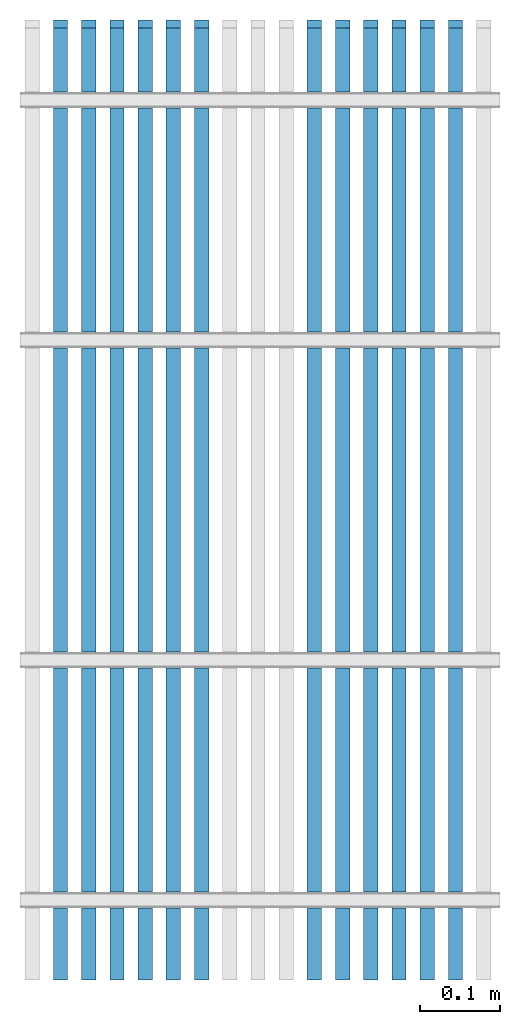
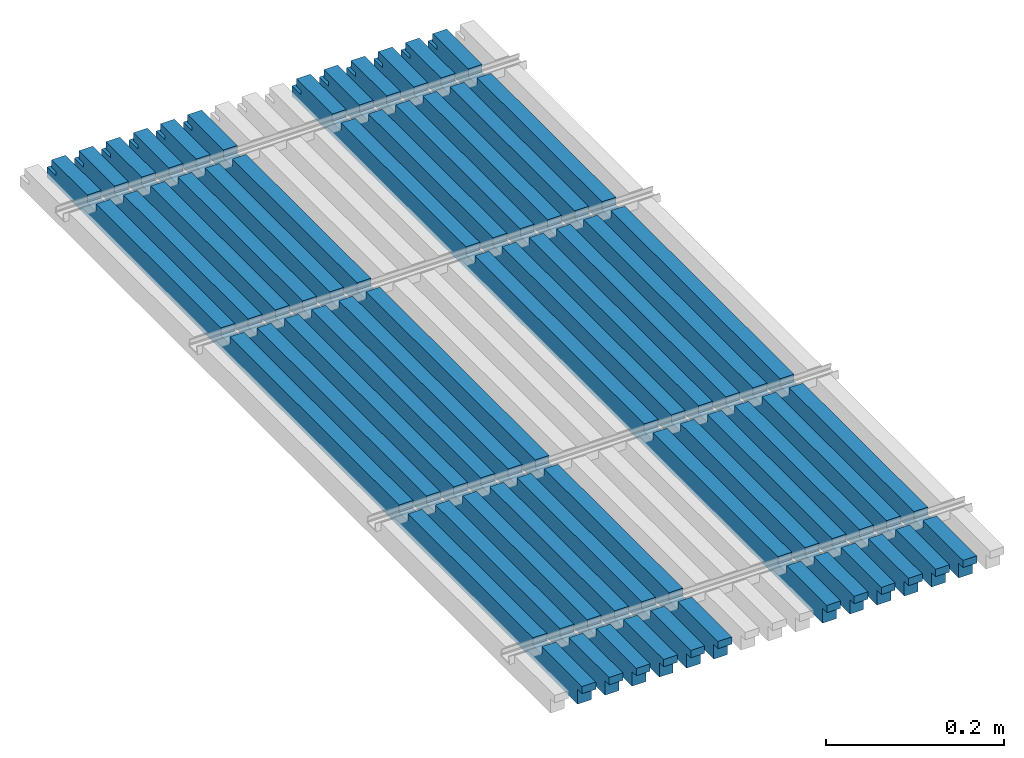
# One storey, part 2 of 3: 12 walls.
"""IFC2X3 building model written with IfcOpenShell, lengths in millimetres."""

from ifc_helpers import new_model, entity, si_unit, converted_unit, money_unit, direction, frame, origin_with_axes, place, context, subcontext, project, spatial, polyline, outline, extrude, boolean, faceted_brep, material, layer, layer_set, layer_usage, type_object, element, save


model = new_model("IFC2X3")

# Units and contexts
model_context = context("Model", 3, precision=1e-05, world=origin_with_axes(), true_north=direction((0.0, 1.0)))
body_context = subcontext(model_context, "Body", "Model", "MODEL_VIEW")
ifc_project = project(units=[si_unit("LENGTHUNIT", "METRE", prefix="MILLI"), si_unit("AREAUNIT", "SQUARE_METRE"), si_unit("VOLUMEUNIT", "CUBIC_METRE"), converted_unit("PLANEANGLEUNIT", "DEGREE", entity("IfcPlaneAngleMeasure", 0.0174532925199), si_unit("PLANEANGLEUNIT", "RADIAN"), dimensions=[0, 0, 0, 0, 0, 0, 0]), si_unit("SOLIDANGLEUNIT", "STERADIAN"), money_unit("AUD"), si_unit("TIMEUNIT", "SECOND"), si_unit("MASSUNIT", "GRAM"), si_unit("THERMODYNAMICTEMPERATUREUNIT", "DEGREE_CELSIUS"), si_unit("LUMINOUSINTENSITYUNIT", "LUMEN")], contexts=[model_context])

# Site, building, storey
site_placement = place(None, origin_with_axes())
site = spatial("IfcSite", under=ifc_project, at=site_placement, Name="Site", CompositionType="ELEMENT")
building_placement = place(site_placement, origin_with_axes())
building = spatial("IfcBuilding", under=site, at=building_placement, Name="Building", CompositionType="ELEMENT")
storey_placement = place(building_placement, origin_with_axes())
storey = spatial("IfcBuildingStorey", under=building, at=storey_placement, Name="GROUND", CompositionType="ELEMENT", Elevation=0.0)

# Walls
ifc_material = material(Name="Timber")
ifc_layer = layer(ifc_material, 18.0, ventilated="UNKNOWN")
ifc_layer_set = layer_set([ifc_layer], Name="Timber 18")
ifc_layer_usage_1 = layer_usage(ifc_layer_set, "AXIS2", "POSITIVE", 0.0)
wall_type = type_object("IfcWallType", Name="Timber 18", PredefinedType="NOTDEFINED")
wall_1_placement = place(storey_placement, frame((379.5225, 0.0, 0.0), z_axis=(0.0, 0.0, 1.0), x_axis=(0.0, 1.0, 0.0)))
element("IfcWallStandardCase", 1, at=wall_1_placement, inside=storey, type_object=wall_type, material=ifc_layer_usage_1, Name="WALL-01", context=body_context, shape_type="CSG", body=[
    boolean("DIFFERENCE", boolean("DIFFERENCE", boolean("DIFFERENCE", boolean("DIFFERENCE", boolean("DIFFERENCE", boolean("DIFFERENCE", extrude(outline(polyline([(0.0, 0.0), (1200.0, 0.0), (1200.0, 18.0), (0.0, 18.0), (0.0, 0.0)])), origin_with_axes(), (0.0, 0.0, 1.0), 30.0), faceted_brep([(9.5, 0.0, 20.0), (0.0, 0.0, 20.0), (0.0, 0.0, 0.0), (9.5, 0.0, 0.0), (9.5, 18.0, 20.0), (0.0, 18.0, 20.0), (0.0, 18.0, 0.0), (9.5, 18.0, 0.0)], [[[0, 1, 2, 3]], [[1, 0, 4, 5]], [[1, 5, 6, 2]], [[7, 3, 2, 6]], [[0, 3, 7, 4]], [[4, 7, 6, 5]]])), faceted_brep([(90.0, 0.0, 20.0), (110.0, 0.0, 20.0), (110.0, 0.0, 30.0), (90.0, 0.0, 30.0), (90.0, 18.0, 20.0), (110.0, 18.0, 20.0), (110.0, 18.0, 30.0), (90.0, 18.0, 30.0)], [[[0, 1, 2, 3]], [[1, 0, 4, 5]], [[6, 2, 1, 5]], [[7, 3, 2, 6]], [[0, 3, 7, 4]], [[4, 7, 6, 5]]])), faceted_brep([(390.0, 0.0, 20.0), (410.0, 0.0, 20.0), (410.0, 0.0, 30.0), (390.0, 0.0, 30.0), (390.0, 18.0, 20.0), (410.0, 18.0, 20.0), (410.0, 18.0, 30.0), (390.0, 18.0, 30.0)], [[[0, 1, 2, 3]], [[1, 0, 4, 5]], [[6, 2, 1, 5]], [[7, 3, 2, 6]], [[0, 3, 7, 4]], [[4, 7, 6, 5]]])), faceted_brep([(790.0, 0.0, 20.0), (810.0, 0.0, 20.0), (810.0, 0.0, 30.0), (790.0, 0.0, 30.0), (790.0, 18.0, 20.0), (810.0, 18.0, 20.0), (810.0, 18.0, 30.0), (790.0, 18.0, 30.0)], [[[0, 1, 2, 3]], [[1, 0, 4, 5]], [[6, 2, 1, 5]], [[7, 3, 2, 6]], [[0, 3, 7, 4]], [[4, 7, 6, 5]]])), faceted_brep([(1090.0, 0.0, 20.0), (1110.0, 0.0, 20.0), (1110.0, 0.0, 30.0), (1090.0, 0.0, 30.0), (1090.0, 18.0, 20.0), (1110.0, 18.0, 20.0), (1110.0, 18.0, 30.0), (1090.0, 18.0, 30.0)], [[[0, 1, 2, 3]], [[1, 0, 4, 5]], [[6, 2, 1, 5]], [[7, 3, 2, 6]], [[0, 3, 7, 4]], [[4, 7, 6, 5]]])), faceted_brep([(1180.0, 0.0, 19.5), (1180.0, 0.0, 14.0), (1200.0, 0.0, 14.0), (1200.0, 0.0, 30.0), (1190.0, 0.0, 30.0), (1190.0, 0.0, 19.5), (1180.0, 18.0, 19.5), (1180.0, 18.0, 14.0), (1200.0, 18.0, 14.0), (1200.0, 18.0, 30.0), (1190.0, 18.0, 30.0), (1190.0, 18.0, 19.5)], [[[0, 1, 2, 3, 4, 5]], [[1, 0, 6, 7]], [[8, 2, 1, 7]], [[2, 8, 9, 3]], [[10, 4, 3, 9]], [[5, 4, 10, 11]], [[0, 5, 11, 6]], [[11, 10, 9, 8, 7, 6]]])),
])
ifc_layer_usage_2 = layer_usage(ifc_layer_set, "AXIS2", "POSITIVE", 0.0)
wall_2_placement = place(storey_placement, frame((414.78375, 0.0, 0.0), z_axis=(0.0, 0.0, 1.0), x_axis=(0.0, 1.0, 0.0)))
element("IfcWallStandardCase", 2, at=wall_2_placement, inside=storey, type_object=wall_type, material=ifc_layer_usage_2, Name="WALL-01", context=body_context, shape_type="CSG", body=[
    boolean("DIFFERENCE", boolean("DIFFERENCE", boolean("DIFFERENCE", boolean("DIFFERENCE", boolean("DIFFERENCE", boolean("DIFFERENCE", extrude(outline(polyline([(0.0, 0.0), (1200.0, 0.0), (1200.0, 18.0), (0.0, 18.0), (0.0, 0.0)])), origin_with_axes(), (0.0, 0.0, 1.0), 30.0), faceted_brep([(9.5, 0.0, 20.0), (0.0, 0.0, 20.0), (0.0, 0.0, 0.0), (9.5, 0.0, 0.0), (9.5, 18.0, 20.0), (0.0, 18.0, 20.0), (0.0, 18.0, 0.0), (9.5, 18.0, 0.0)], [[[0, 1, 2, 3]], [[1, 0, 4, 5]], [[1, 5, 6, 2]], [[7, 3, 2, 6]], [[0, 3, 7, 4]], [[4, 7, 6, 5]]])), faceted_brep([(90.0, 0.0, 20.0), (110.0, 0.0, 20.0), (110.0, 0.0, 30.0), (90.0, 0.0, 30.0), (90.0, 18.0, 20.0), (110.0, 18.0, 20.0), (110.0, 18.0, 30.0), (90.0, 18.0, 30.0)], [[[0, 1, 2, 3]], [[1, 0, 4, 5]], [[6, 2, 1, 5]], [[7, 3, 2, 6]], [[0, 3, 7, 4]], [[4, 7, 6, 5]]])), faceted_brep([(390.0, 0.0, 20.0), (410.0, 0.0, 20.0), (410.0, 0.0, 30.0), (390.0, 0.0, 30.0), (390.0, 18.0, 20.0), (410.0, 18.0, 20.0), (410.0, 18.0, 30.0), (390.0, 18.0, 30.0)], [[[0, 1, 2, 3]], [[1, 0, 4, 5]], [[6, 2, 1, 5]], [[7, 3, 2, 6]], [[0, 3, 7, 4]], [[4, 7, 6, 5]]])), faceted_brep([(790.0, 0.0, 20.0), (810.0, 0.0, 20.0), (810.0, 0.0, 30.0), (790.0, 0.0, 30.0), (790.0, 18.0, 20.0), (810.0, 18.0, 20.0), (810.0, 18.0, 30.0), (790.0, 18.0, 30.0)], [[[0, 1, 2, 3]], [[1, 0, 4, 5]], [[6, 2, 1, 5]], [[7, 3, 2, 6]], [[0, 3, 7, 4]], [[4, 7, 6, 5]]])), faceted_brep([(1090.0, 0.0, 20.0), (1110.0, 0.0, 20.0), (1110.0, 0.0, 30.0), (1090.0, 0.0, 30.0), (1090.0, 18.0, 20.0), (1110.0, 18.0, 20.0), (1110.0, 18.0, 30.0), (1090.0, 18.0, 30.0)], [[[0, 1, 2, 3]], [[1, 0, 4, 5]], [[6, 2, 1, 5]], [[7, 3, 2, 6]], [[0, 3, 7, 4]], [[4, 7, 6, 5]]])), faceted_brep([(1180.0, 0.0, 19.5), (1180.0, 0.0, 14.0), (1200.0, 0.0, 14.0), (1200.0, 0.0, 30.0), (1190.0, 0.0, 30.0), (1190.0, 0.0, 19.5), (1180.0, 18.0, 19.5), (1180.0, 18.0, 14.0), (1200.0, 18.0, 14.0), (1200.0, 18.0, 30.0), (1190.0, 18.0, 30.0), (1190.0, 18.0, 19.5)], [[[0, 1, 2, 3, 4, 5]], [[1, 0, 6, 7]], [[8, 2, 1, 7]], [[2, 8, 9, 3]], [[10, 4, 3, 9]], [[5, 4, 10, 11]], [[0, 5, 11, 6]], [[11, 10, 9, 8, 7, 6]]])),
])
ifc_layer_usage_3 = layer_usage(ifc_layer_set, "AXIS2", "POSITIVE", 0.0)
wall_3_placement = place(storey_placement, frame((450.045, 0.0, 0.0), z_axis=(0.0, 0.0, 1.0), x_axis=(0.0, 1.0, 0.0)))
element("IfcWallStandardCase", 3, at=wall_3_placement, inside=storey, type_object=wall_type, material=ifc_layer_usage_3, Name="WALL-01", context=body_context, shape_type="CSG", body=[
    boolean("DIFFERENCE", boolean("DIFFERENCE", boolean("DIFFERENCE", boolean("DIFFERENCE", boolean("DIFFERENCE", boolean("DIFFERENCE", extrude(outline(polyline([(0.0, 0.0), (1200.0, 0.0), (1200.0, 18.0), (0.0, 18.0), (0.0, 0.0)])), origin_with_axes(), (0.0, 0.0, 1.0), 30.0), faceted_brep([(9.5, 0.0, 20.0), (0.0, 0.0, 20.0), (0.0, 0.0, 0.0), (9.5, 0.0, 0.0), (9.5, 18.0, 20.0), (0.0, 18.0, 20.0), (0.0, 18.0, 0.0), (9.5, 18.0, 0.0)], [[[0, 1, 2, 3]], [[1, 0, 4, 5]], [[1, 5, 6, 2]], [[7, 3, 2, 6]], [[0, 3, 7, 4]], [[4, 7, 6, 5]]])), faceted_brep([(90.0, 0.0, 20.0), (110.0, 0.0, 20.0), (110.0, 0.0, 30.0), (90.0, 0.0, 30.0), (90.0, 18.0, 20.0), (110.0, 18.0, 20.0), (110.0, 18.0, 30.0), (90.0, 18.0, 30.0)], [[[0, 1, 2, 3]], [[1, 0, 4, 5]], [[6, 2, 1, 5]], [[7, 3, 2, 6]], [[0, 3, 7, 4]], [[4, 7, 6, 5]]])), faceted_brep([(390.0, 0.0, 20.0), (410.0, 0.0, 20.0), (410.0, 0.0, 30.0), (390.0, 0.0, 30.0), (390.0, 18.0, 20.0), (410.0, 18.0, 20.0), (410.0, 18.0, 30.0), (390.0, 18.0, 30.0)], [[[0, 1, 2, 3]], [[1, 0, 4, 5]], [[6, 2, 1, 5]], [[7, 3, 2, 6]], [[0, 3, 7, 4]], [[4, 7, 6, 5]]])), faceted_brep([(790.0, 0.0, 20.0), (810.0, 0.0, 20.0), (810.0, 0.0, 30.0), (790.0, 0.0, 30.0), (790.0, 18.0, 20.0), (810.0, 18.0, 20.0), (810.0, 18.0, 30.0), (790.0, 18.0, 30.0)], [[[0, 1, 2, 3]], [[1, 0, 4, 5]], [[6, 2, 1, 5]], [[7, 3, 2, 6]], [[0, 3, 7, 4]], [[4, 7, 6, 5]]])), faceted_brep([(1090.0, 0.0, 20.0), (1110.0, 0.0, 20.0), (1110.0, 0.0, 30.0), (1090.0, 0.0, 30.0), (1090.0, 18.0, 20.0), (1110.0, 18.0, 20.0), (1110.0, 18.0, 30.0), (1090.0, 18.0, 30.0)], [[[0, 1, 2, 3]], [[1, 0, 4, 5]], [[6, 2, 1, 5]], [[7, 3, 2, 6]], [[0, 3, 7, 4]], [[4, 7, 6, 5]]])), faceted_brep([(1180.0, 0.0, 19.5), (1180.0, 0.0, 14.0), (1200.0, 0.0, 14.0), (1200.0, 0.0, 30.0), (1190.0, 0.0, 30.0), (1190.0, 0.0, 19.5), (1180.0, 18.0, 19.5), (1180.0, 18.0, 14.0), (1200.0, 18.0, 14.0), (1200.0, 18.0, 30.0), (1190.0, 18.0, 30.0), (1190.0, 18.0, 19.5)], [[[0, 1, 2, 3, 4, 5]], [[1, 0, 6, 7]], [[8, 2, 1, 7]], [[2, 8, 9, 3]], [[10, 4, 3, 9]], [[5, 4, 10, 11]], [[0, 5, 11, 6]], [[11, 10, 9, 8, 7, 6]]])),
])
ifc_layer_usage_4 = layer_usage(ifc_layer_set, "AXIS2", "POSITIVE", 0.0)
wall_4_placement = place(storey_placement, frame((238.4775, 0.0, 0.0), z_axis=(0.0, 0.0, 1.0), x_axis=(0.0, 1.0, 0.0)))
element("IfcWallStandardCase", 4, at=wall_4_placement, inside=storey, type_object=wall_type, material=ifc_layer_usage_4, Name="WALL-01", context=body_context, shape_type="CSG", body=[
    boolean("DIFFERENCE", boolean("DIFFERENCE", boolean("DIFFERENCE", boolean("DIFFERENCE", boolean("DIFFERENCE", boolean("DIFFERENCE", extrude(outline(polyline([(0.0, 0.0), (1200.0, 0.0), (1200.0, 18.0), (0.0, 18.0), (0.0, 0.0)])), origin_with_axes(), (0.0, 0.0, 1.0), 30.0), faceted_brep([(9.5, 0.0, 20.0), (0.0, 0.0, 20.0), (0.0, 0.0, 0.0), (9.5, 0.0, 0.0), (9.5, 18.0, 20.0), (0.0, 18.0, 20.0), (0.0, 18.0, 0.0), (9.5, 18.0, 0.0)], [[[0, 1, 2, 3]], [[1, 0, 4, 5]], [[1, 5, 6, 2]], [[7, 3, 2, 6]], [[0, 3, 7, 4]], [[4, 7, 6, 5]]])), faceted_brep([(90.0, 0.0, 20.0), (110.0, 0.0, 20.0), (110.0, 0.0, 30.0), (90.0, 0.0, 30.0), (90.0, 18.0, 20.0), (110.0, 18.0, 20.0), (110.0, 18.0, 30.0), (90.0, 18.0, 30.0)], [[[0, 1, 2, 3]], [[1, 0, 4, 5]], [[6, 2, 1, 5]], [[7, 3, 2, 6]], [[0, 3, 7, 4]], [[4, 7, 6, 5]]])), faceted_brep([(390.0, 0.0, 20.0), (410.0, 0.0, 20.0), (410.0, 0.0, 30.0), (390.0, 0.0, 30.0), (390.0, 18.0, 20.0), (410.0, 18.0, 20.0), (410.0, 18.0, 30.0), (390.0, 18.0, 30.0)], [[[0, 1, 2, 3]], [[1, 0, 4, 5]], [[6, 2, 1, 5]], [[7, 3, 2, 6]], [[0, 3, 7, 4]], [[4, 7, 6, 5]]])), faceted_brep([(790.0, 0.0, 20.0), (810.0, 0.0, 20.0), (810.0, 0.0, 30.0), (790.0, 0.0, 30.0), (790.0, 18.0, 20.0), (810.0, 18.0, 20.0), (810.0, 18.0, 30.0), (790.0, 18.0, 30.0)], [[[0, 1, 2, 3]], [[1, 0, 4, 5]], [[6, 2, 1, 5]], [[7, 3, 2, 6]], [[0, 3, 7, 4]], [[4, 7, 6, 5]]])), faceted_brep([(1090.0, 0.0, 20.0), (1110.0, 0.0, 20.0), (1110.0, 0.0, 30.0), (1090.0, 0.0, 30.0), (1090.0, 18.0, 20.0), (1110.0, 18.0, 20.0), (1110.0, 18.0, 30.0), (1090.0, 18.0, 30.0)], [[[0, 1, 2, 3]], [[1, 0, 4, 5]], [[6, 2, 1, 5]], [[7, 3, 2, 6]], [[0, 3, 7, 4]], [[4, 7, 6, 5]]])), faceted_brep([(1180.0, 0.0, 19.5), (1180.0, 0.0, 14.0), (1200.0, 0.0, 14.0), (1200.0, 0.0, 30.0), (1190.0, 0.0, 30.0), (1190.0, 0.0, 19.5), (1180.0, 18.0, 19.5), (1180.0, 18.0, 14.0), (1200.0, 18.0, 14.0), (1200.0, 18.0, 30.0), (1190.0, 18.0, 30.0), (1190.0, 18.0, 19.5)], [[[0, 1, 2, 3, 4, 5]], [[1, 0, 6, 7]], [[8, 2, 1, 7]], [[2, 8, 9, 3]], [[10, 4, 3, 9]], [[5, 4, 10, 11]], [[0, 5, 11, 6]], [[11, 10, 9, 8, 7, 6]]])),
])
ifc_layer_usage_5 = layer_usage(ifc_layer_set, "AXIS2", "POSITIVE", 0.0)
wall_5_placement = place(storey_placement, frame((485.30625, 0.0, 0.0), z_axis=(0.0, 0.0, 1.0), x_axis=(0.0, 1.0, 0.0)))
element("IfcWallStandardCase", 5, at=wall_5_placement, inside=storey, type_object=wall_type, material=ifc_layer_usage_5, Name="WALL-01", context=body_context, shape_type="CSG", body=[
    boolean("DIFFERENCE", boolean("DIFFERENCE", boolean("DIFFERENCE", boolean("DIFFERENCE", boolean("DIFFERENCE", boolean("DIFFERENCE", extrude(outline(polyline([(0.0, 0.0), (1200.0, 0.0), (1200.0, 18.0), (0.0, 18.0), (0.0, 0.0)])), origin_with_axes(), (0.0, 0.0, 1.0), 30.0), faceted_brep([(9.5, 0.0, 20.0), (0.0, 0.0, 20.0), (0.0, 0.0, 0.0), (9.5, 0.0, 0.0), (9.5, 18.0, 20.0), (0.0, 18.0, 20.0), (0.0, 18.0, 0.0), (9.5, 18.0, 0.0)], [[[0, 1, 2, 3]], [[1, 0, 4, 5]], [[1, 5, 6, 2]], [[7, 3, 2, 6]], [[0, 3, 7, 4]], [[4, 7, 6, 5]]])), faceted_brep([(90.0, 0.0, 20.0), (110.0, 0.0, 20.0), (110.0, 0.0, 30.0), (90.0, 0.0, 30.0), (90.0, 18.0, 20.0), (110.0, 18.0, 20.0), (110.0, 18.0, 30.0), (90.0, 18.0, 30.0)], [[[0, 1, 2, 3]], [[1, 0, 4, 5]], [[6, 2, 1, 5]], [[7, 3, 2, 6]], [[0, 3, 7, 4]], [[4, 7, 6, 5]]])), faceted_brep([(390.0, 0.0, 20.0), (410.0, 0.0, 20.0), (410.0, 0.0, 30.0), (390.0, 0.0, 30.0), (390.0, 18.0, 20.0), (410.0, 18.0, 20.0), (410.0, 18.0, 30.0), (390.0, 18.0, 30.0)], [[[0, 1, 2, 3]], [[1, 0, 4, 5]], [[6, 2, 1, 5]], [[7, 3, 2, 6]], [[0, 3, 7, 4]], [[4, 7, 6, 5]]])), faceted_brep([(790.0, 0.0, 20.0), (810.0, 0.0, 20.0), (810.0, 0.0, 30.0), (790.0, 0.0, 30.0), (790.0, 18.0, 20.0), (810.0, 18.0, 20.0), (810.0, 18.0, 30.0), (790.0, 18.0, 30.0)], [[[0, 1, 2, 3]], [[1, 0, 4, 5]], [[6, 2, 1, 5]], [[7, 3, 2, 6]], [[0, 3, 7, 4]], [[4, 7, 6, 5]]])), faceted_brep([(1090.0, 0.0, 20.0), (1110.0, 0.0, 20.0), (1110.0, 0.0, 30.0), (1090.0, 0.0, 30.0), (1090.0, 18.0, 20.0), (1110.0, 18.0, 20.0), (1110.0, 18.0, 30.0), (1090.0, 18.0, 30.0)], [[[0, 1, 2, 3]], [[1, 0, 4, 5]], [[6, 2, 1, 5]], [[7, 3, 2, 6]], [[0, 3, 7, 4]], [[4, 7, 6, 5]]])), faceted_brep([(1180.0, 0.0, 19.5), (1180.0, 0.0, 14.0), (1200.0, 0.0, 14.0), (1200.0, 0.0, 30.0), (1190.0, 0.0, 30.0), (1190.0, 0.0, 19.5), (1180.0, 18.0, 19.5), (1180.0, 18.0, 14.0), (1200.0, 18.0, 14.0), (1200.0, 18.0, 30.0), (1190.0, 18.0, 30.0), (1190.0, 18.0, 19.5)], [[[0, 1, 2, 3, 4, 5]], [[1, 0, 6, 7]], [[8, 2, 1, 7]], [[2, 8, 9, 3]], [[10, 4, 3, 9]], [[5, 4, 10, 11]], [[0, 5, 11, 6]], [[11, 10, 9, 8, 7, 6]]])),
])
ifc_layer_usage_6 = layer_usage(ifc_layer_set, "AXIS2", "POSITIVE", 0.0)
wall_6_placement = place(storey_placement, frame((520.5675, 0.0, 0.0), z_axis=(0.0, 0.0, 1.0), x_axis=(0.0, 1.0, 0.0)))
element("IfcWallStandardCase", 6, at=wall_6_placement, inside=storey, type_object=wall_type, material=ifc_layer_usage_6, Name="WALL-01", context=body_context, shape_type="CSG", body=[
    boolean("DIFFERENCE", boolean("DIFFERENCE", boolean("DIFFERENCE", boolean("DIFFERENCE", boolean("DIFFERENCE", boolean("DIFFERENCE", extrude(outline(polyline([(0.0, 0.0), (1200.0, 0.0), (1200.0, 18.0), (0.0, 18.0), (0.0, 0.0)])), origin_with_axes(), (0.0, 0.0, 1.0), 30.0), faceted_brep([(9.5, 0.0, 20.0), (0.0, 0.0, 20.0), (0.0, 0.0, 0.0), (9.5, 0.0, 0.0), (9.5, 18.0, 20.0), (0.0, 18.0, 20.0), (0.0, 18.0, 0.0), (9.5, 18.0, 0.0)], [[[0, 1, 2, 3]], [[1, 0, 4, 5]], [[1, 5, 6, 2]], [[7, 3, 2, 6]], [[0, 3, 7, 4]], [[4, 7, 6, 5]]])), faceted_brep([(90.0, 0.0, 20.0), (110.0, 0.0, 20.0), (110.0, 0.0, 30.0), (90.0, 0.0, 30.0), (90.0, 18.0, 20.0), (110.0, 18.0, 20.0), (110.0, 18.0, 30.0), (90.0, 18.0, 30.0)], [[[0, 1, 2, 3]], [[1, 0, 4, 5]], [[6, 2, 1, 5]], [[7, 3, 2, 6]], [[0, 3, 7, 4]], [[4, 7, 6, 5]]])), faceted_brep([(390.0, 0.0, 20.0), (410.0, 0.0, 20.0), (410.0, 0.0, 30.0), (390.0, 0.0, 30.0), (390.0, 18.0, 20.0), (410.0, 18.0, 20.0), (410.0, 18.0, 30.0), (390.0, 18.0, 30.0)], [[[0, 1, 2, 3]], [[1, 0, 4, 5]], [[6, 2, 1, 5]], [[7, 3, 2, 6]], [[0, 3, 7, 4]], [[4, 7, 6, 5]]])), faceted_brep([(790.0, 0.0, 20.0), (810.0, 0.0, 20.0), (810.0, 0.0, 30.0), (790.0, 0.0, 30.0), (790.0, 18.0, 20.0), (810.0, 18.0, 20.0), (810.0, 18.0, 30.0), (790.0, 18.0, 30.0)], [[[0, 1, 2, 3]], [[1, 0, 4, 5]], [[6, 2, 1, 5]], [[7, 3, 2, 6]], [[0, 3, 7, 4]], [[4, 7, 6, 5]]])), faceted_brep([(1090.0, 0.0, 20.0), (1110.0, 0.0, 20.0), (1110.0, 0.0, 30.0), (1090.0, 0.0, 30.0), (1090.0, 18.0, 20.0), (1110.0, 18.0, 20.0), (1110.0, 18.0, 30.0), (1090.0, 18.0, 30.0)], [[[0, 1, 2, 3]], [[1, 0, 4, 5]], [[6, 2, 1, 5]], [[7, 3, 2, 6]], [[0, 3, 7, 4]], [[4, 7, 6, 5]]])), faceted_brep([(1180.0, 0.0, 19.5), (1180.0, 0.0, 14.0), (1200.0, 0.0, 14.0), (1200.0, 0.0, 30.0), (1190.0, 0.0, 30.0), (1190.0, 0.0, 19.5), (1180.0, 18.0, 19.5), (1180.0, 18.0, 14.0), (1200.0, 18.0, 14.0), (1200.0, 18.0, 30.0), (1190.0, 18.0, 30.0), (1190.0, 18.0, 19.5)], [[[0, 1, 2, 3, 4, 5]], [[1, 0, 6, 7]], [[8, 2, 1, 7]], [[2, 8, 9, 3]], [[10, 4, 3, 9]], [[5, 4, 10, 11]], [[0, 5, 11, 6]], [[11, 10, 9, 8, 7, 6]]])),
])
ifc_layer_usage_7 = layer_usage(ifc_layer_set, "AXIS2", "POSITIVE", 0.0)
wall_7_placement = place(storey_placement, frame((555.82875, 0.0, 0.0), z_axis=(0.0, 0.0, 1.0), x_axis=(0.0, 1.0, 0.0)))
element("IfcWallStandardCase", 7, at=wall_7_placement, inside=storey, type_object=wall_type, material=ifc_layer_usage_7, Name="WALL-01", context=body_context, shape_type="CSG", body=[
    boolean("DIFFERENCE", boolean("DIFFERENCE", boolean("DIFFERENCE", boolean("DIFFERENCE", boolean("DIFFERENCE", boolean("DIFFERENCE", extrude(outline(polyline([(0.0, 0.0), (1200.0, 0.0), (1200.0, 18.0), (0.0, 18.0), (0.0, 0.0)])), origin_with_axes(), (0.0, 0.0, 1.0), 30.0), faceted_brep([(9.5, 0.0, 20.0), (0.0, 0.0, 20.0), (0.0, 0.0, 0.0), (9.5, 0.0, 0.0), (9.5, 18.0, 20.0), (0.0, 18.0, 20.0), (0.0, 18.0, 0.0), (9.5, 18.0, 0.0)], [[[0, 1, 2, 3]], [[1, 0, 4, 5]], [[1, 5, 6, 2]], [[7, 3, 2, 6]], [[0, 3, 7, 4]], [[4, 7, 6, 5]]])), faceted_brep([(90.0, 0.0, 20.0), (110.0, 0.0, 20.0), (110.0, 0.0, 30.0), (90.0, 0.0, 30.0), (90.0, 18.0, 20.0), (110.0, 18.0, 20.0), (110.0, 18.0, 30.0), (90.0, 18.0, 30.0)], [[[0, 1, 2, 3]], [[1, 0, 4, 5]], [[6, 2, 1, 5]], [[7, 3, 2, 6]], [[0, 3, 7, 4]], [[4, 7, 6, 5]]])), faceted_brep([(390.0, 0.0, 20.0), (410.0, 0.0, 20.0), (410.0, 0.0, 30.0), (390.0, 0.0, 30.0), (390.0, 18.0, 20.0), (410.0, 18.0, 20.0), (410.0, 18.0, 30.0), (390.0, 18.0, 30.0)], [[[0, 1, 2, 3]], [[1, 0, 4, 5]], [[6, 2, 1, 5]], [[7, 3, 2, 6]], [[0, 3, 7, 4]], [[4, 7, 6, 5]]])), faceted_brep([(790.0, 0.0, 20.0), (810.0, 0.0, 20.0), (810.0, 0.0, 30.0), (790.0, 0.0, 30.0), (790.0, 18.0, 20.0), (810.0, 18.0, 20.0), (810.0, 18.0, 30.0), (790.0, 18.0, 30.0)], [[[0, 1, 2, 3]], [[1, 0, 4, 5]], [[6, 2, 1, 5]], [[7, 3, 2, 6]], [[0, 3, 7, 4]], [[4, 7, 6, 5]]])), faceted_brep([(1090.0, 0.0, 20.0), (1110.0, 0.0, 20.0), (1110.0, 0.0, 30.0), (1090.0, 0.0, 30.0), (1090.0, 18.0, 20.0), (1110.0, 18.0, 20.0), (1110.0, 18.0, 30.0), (1090.0, 18.0, 30.0)], [[[0, 1, 2, 3]], [[1, 0, 4, 5]], [[6, 2, 1, 5]], [[7, 3, 2, 6]], [[0, 3, 7, 4]], [[4, 7, 6, 5]]])), faceted_brep([(1180.0, 0.0, 19.5), (1180.0, 0.0, 14.0), (1200.0, 0.0, 14.0), (1200.0, 0.0, 30.0), (1190.0, 0.0, 30.0), (1190.0, 0.0, 19.5), (1180.0, 18.0, 19.5), (1180.0, 18.0, 14.0), (1200.0, 18.0, 14.0), (1200.0, 18.0, 30.0), (1190.0, 18.0, 30.0), (1190.0, 18.0, 19.5)], [[[0, 1, 2, 3, 4, 5]], [[1, 0, 6, 7]], [[8, 2, 1, 7]], [[2, 8, 9, 3]], [[10, 4, 3, 9]], [[5, 4, 10, 11]], [[0, 5, 11, 6]], [[11, 10, 9, 8, 7, 6]]])),
])
ifc_layer_usage_8 = layer_usage(ifc_layer_set, "AXIS2", "POSITIVE", 0.0)
wall_8_placement = place(storey_placement, frame((203.21625, 0.0, 0.0), z_axis=(0.0, 0.0, 1.0), x_axis=(0.0, 1.0, 0.0)))
element("IfcWallStandardCase", 8, at=wall_8_placement, inside=storey, type_object=wall_type, material=ifc_layer_usage_8, Name="WALL-01", context=body_context, shape_type="CSG", body=[
    boolean("DIFFERENCE", boolean("DIFFERENCE", boolean("DIFFERENCE", boolean("DIFFERENCE", boolean("DIFFERENCE", boolean("DIFFERENCE", extrude(outline(polyline([(0.0, 0.0), (1200.0, 0.0), (1200.0, 18.0), (0.0, 18.0), (0.0, 0.0)])), origin_with_axes(), (0.0, 0.0, 1.0), 30.0), faceted_brep([(9.5, 0.0, 20.0), (0.0, 0.0, 20.0), (0.0, 0.0, 0.0), (9.5, 0.0, 0.0), (9.5, 18.0, 20.0), (0.0, 18.0, 20.0), (0.0, 18.0, 0.0), (9.5, 18.0, 0.0)], [[[0, 1, 2, 3]], [[1, 0, 4, 5]], [[1, 5, 6, 2]], [[7, 3, 2, 6]], [[0, 3, 7, 4]], [[4, 7, 6, 5]]])), faceted_brep([(90.0, 0.0, 20.0), (110.0, 0.0, 20.0), (110.0, 0.0, 30.0), (90.0, 0.0, 30.0), (90.0, 18.0, 20.0), (110.0, 18.0, 20.0), (110.0, 18.0, 30.0), (90.0, 18.0, 30.0)], [[[0, 1, 2, 3]], [[1, 0, 4, 5]], [[6, 2, 1, 5]], [[7, 3, 2, 6]], [[0, 3, 7, 4]], [[4, 7, 6, 5]]])), faceted_brep([(390.0, 0.0, 20.0), (410.0, 0.0, 20.0), (410.0, 0.0, 30.0), (390.0, 0.0, 30.0), (390.0, 18.0, 20.0), (410.0, 18.0, 20.0), (410.0, 18.0, 30.0), (390.0, 18.0, 30.0)], [[[0, 1, 2, 3]], [[1, 0, 4, 5]], [[6, 2, 1, 5]], [[7, 3, 2, 6]], [[0, 3, 7, 4]], [[4, 7, 6, 5]]])), faceted_brep([(790.0, 0.0, 20.0), (810.0, 0.0, 20.0), (810.0, 0.0, 30.0), (790.0, 0.0, 30.0), (790.0, 18.0, 20.0), (810.0, 18.0, 20.0), (810.0, 18.0, 30.0), (790.0, 18.0, 30.0)], [[[0, 1, 2, 3]], [[1, 0, 4, 5]], [[6, 2, 1, 5]], [[7, 3, 2, 6]], [[0, 3, 7, 4]], [[4, 7, 6, 5]]])), faceted_brep([(1090.0, 0.0, 20.0), (1110.0, 0.0, 20.0), (1110.0, 0.0, 30.0), (1090.0, 0.0, 30.0), (1090.0, 18.0, 20.0), (1110.0, 18.0, 20.0), (1110.0, 18.0, 30.0), (1090.0, 18.0, 30.0)], [[[0, 1, 2, 3]], [[1, 0, 4, 5]], [[6, 2, 1, 5]], [[7, 3, 2, 6]], [[0, 3, 7, 4]], [[4, 7, 6, 5]]])), faceted_brep([(1180.0, 0.0, 19.5), (1180.0, 0.0, 14.0), (1200.0, 0.0, 14.0), (1200.0, 0.0, 30.0), (1190.0, 0.0, 30.0), (1190.0, 0.0, 19.5), (1180.0, 18.0, 19.5), (1180.0, 18.0, 14.0), (1200.0, 18.0, 14.0), (1200.0, 18.0, 30.0), (1190.0, 18.0, 30.0), (1190.0, 18.0, 19.5)], [[[0, 1, 2, 3, 4, 5]], [[1, 0, 6, 7]], [[8, 2, 1, 7]], [[2, 8, 9, 3]], [[10, 4, 3, 9]], [[5, 4, 10, 11]], [[0, 5, 11, 6]], [[11, 10, 9, 8, 7, 6]]])),
])
ifc_layer_usage_9 = layer_usage(ifc_layer_set, "AXIS2", "POSITIVE", 0.0)
wall_9_placement = place(storey_placement, frame((167.955, 0.0, 0.0), z_axis=(0.0, 0.0, 1.0), x_axis=(0.0, 1.0, 0.0)))
element("IfcWallStandardCase", 9, at=wall_9_placement, inside=storey, type_object=wall_type, material=ifc_layer_usage_9, Name="WALL-01", context=body_context, shape_type="CSG", body=[
    boolean("DIFFERENCE", boolean("DIFFERENCE", boolean("DIFFERENCE", boolean("DIFFERENCE", boolean("DIFFERENCE", boolean("DIFFERENCE", extrude(outline(polyline([(0.0, 0.0), (1200.0, 0.0), (1200.0, 18.0), (0.0, 18.0), (0.0, 0.0)])), origin_with_axes(), (0.0, 0.0, 1.0), 30.0), faceted_brep([(9.5, 0.0, 20.0), (0.0, 0.0, 20.0), (0.0, 0.0, 0.0), (9.5, 0.0, 0.0), (9.5, 18.0, 20.0), (0.0, 18.0, 20.0), (0.0, 18.0, 0.0), (9.5, 18.0, 0.0)], [[[0, 1, 2, 3]], [[1, 0, 4, 5]], [[1, 5, 6, 2]], [[7, 3, 2, 6]], [[0, 3, 7, 4]], [[4, 7, 6, 5]]])), faceted_brep([(90.0, 0.0, 20.0), (110.0, 0.0, 20.0), (110.0, 0.0, 30.0), (90.0, 0.0, 30.0), (90.0, 18.0, 20.0), (110.0, 18.0, 20.0), (110.0, 18.0, 30.0), (90.0, 18.0, 30.0)], [[[0, 1, 2, 3]], [[1, 0, 4, 5]], [[6, 2, 1, 5]], [[7, 3, 2, 6]], [[0, 3, 7, 4]], [[4, 7, 6, 5]]])), faceted_brep([(390.0, 0.0, 20.0), (410.0, 0.0, 20.0), (410.0, 0.0, 30.0), (390.0, 0.0, 30.0), (390.0, 18.0, 20.0), (410.0, 18.0, 20.0), (410.0, 18.0, 30.0), (390.0, 18.0, 30.0)], [[[0, 1, 2, 3]], [[1, 0, 4, 5]], [[6, 2, 1, 5]], [[7, 3, 2, 6]], [[0, 3, 7, 4]], [[4, 7, 6, 5]]])), faceted_brep([(790.0, 0.0, 20.0), (810.0, 0.0, 20.0), (810.0, 0.0, 30.0), (790.0, 0.0, 30.0), (790.0, 18.0, 20.0), (810.0, 18.0, 20.0), (810.0, 18.0, 30.0), (790.0, 18.0, 30.0)], [[[0, 1, 2, 3]], [[1, 0, 4, 5]], [[6, 2, 1, 5]], [[7, 3, 2, 6]], [[0, 3, 7, 4]], [[4, 7, 6, 5]]])), faceted_brep([(1090.0, 0.0, 20.0), (1110.0, 0.0, 20.0), (1110.0, 0.0, 30.0), (1090.0, 0.0, 30.0), (1090.0, 18.0, 20.0), (1110.0, 18.0, 20.0), (1110.0, 18.0, 30.0), (1090.0, 18.0, 30.0)], [[[0, 1, 2, 3]], [[1, 0, 4, 5]], [[6, 2, 1, 5]], [[7, 3, 2, 6]], [[0, 3, 7, 4]], [[4, 7, 6, 5]]])), faceted_brep([(1180.0, 0.0, 19.5), (1180.0, 0.0, 14.0), (1200.0, 0.0, 14.0), (1200.0, 0.0, 30.0), (1190.0, 0.0, 30.0), (1190.0, 0.0, 19.5), (1180.0, 18.0, 19.5), (1180.0, 18.0, 14.0), (1200.0, 18.0, 14.0), (1200.0, 18.0, 30.0), (1190.0, 18.0, 30.0), (1190.0, 18.0, 19.5)], [[[0, 1, 2, 3, 4, 5]], [[1, 0, 6, 7]], [[8, 2, 1, 7]], [[2, 8, 9, 3]], [[10, 4, 3, 9]], [[5, 4, 10, 11]], [[0, 5, 11, 6]], [[11, 10, 9, 8, 7, 6]]])),
])
ifc_layer_usage_10 = layer_usage(ifc_layer_set, "AXIS2", "POSITIVE", 0.0)
wall_10_placement = place(storey_placement, frame((132.69375, 0.0, 0.0), z_axis=(0.0, 0.0, 1.0), x_axis=(0.0, 1.0, 0.0)))
element("IfcWallStandardCase", 10, at=wall_10_placement, inside=storey, type_object=wall_type, material=ifc_layer_usage_10, Name="WALL-01", context=body_context, shape_type="CSG", body=[
    boolean("DIFFERENCE", boolean("DIFFERENCE", boolean("DIFFERENCE", boolean("DIFFERENCE", boolean("DIFFERENCE", boolean("DIFFERENCE", extrude(outline(polyline([(0.0, 0.0), (1200.0, 0.0), (1200.0, 18.0), (0.0, 18.0), (0.0, 0.0)])), origin_with_axes(), (0.0, 0.0, 1.0), 30.0), faceted_brep([(9.5, 0.0, 20.0), (0.0, 0.0, 20.0), (0.0, 0.0, 0.0), (9.5, 0.0, 0.0), (9.5, 18.0, 20.0), (0.0, 18.0, 20.0), (0.0, 18.0, 0.0), (9.5, 18.0, 0.0)], [[[0, 1, 2, 3]], [[1, 0, 4, 5]], [[1, 5, 6, 2]], [[7, 3, 2, 6]], [[0, 3, 7, 4]], [[4, 7, 6, 5]]])), faceted_brep([(90.0, 0.0, 20.0), (110.0, 0.0, 20.0), (110.0, 0.0, 30.0), (90.0, 0.0, 30.0), (90.0, 18.0, 20.0), (110.0, 18.0, 20.0), (110.0, 18.0, 30.0), (90.0, 18.0, 30.0)], [[[0, 1, 2, 3]], [[1, 0, 4, 5]], [[6, 2, 1, 5]], [[7, 3, 2, 6]], [[0, 3, 7, 4]], [[4, 7, 6, 5]]])), faceted_brep([(390.0, 0.0, 20.0), (410.0, 0.0, 20.0), (410.0, 0.0, 30.0), (390.0, 0.0, 30.0), (390.0, 18.0, 20.0), (410.0, 18.0, 20.0), (410.0, 18.0, 30.0), (390.0, 18.0, 30.0)], [[[0, 1, 2, 3]], [[1, 0, 4, 5]], [[6, 2, 1, 5]], [[7, 3, 2, 6]], [[0, 3, 7, 4]], [[4, 7, 6, 5]]])), faceted_brep([(790.0, 0.0, 20.0), (810.0, 0.0, 20.0), (810.0, 0.0, 30.0), (790.0, 0.0, 30.0), (790.0, 18.0, 20.0), (810.0, 18.0, 20.0), (810.0, 18.0, 30.0), (790.0, 18.0, 30.0)], [[[0, 1, 2, 3]], [[1, 0, 4, 5]], [[6, 2, 1, 5]], [[7, 3, 2, 6]], [[0, 3, 7, 4]], [[4, 7, 6, 5]]])), faceted_brep([(1090.0, 0.0, 20.0), (1110.0, 0.0, 20.0), (1110.0, 0.0, 30.0), (1090.0, 0.0, 30.0), (1090.0, 18.0, 20.0), (1110.0, 18.0, 20.0), (1110.0, 18.0, 30.0), (1090.0, 18.0, 30.0)], [[[0, 1, 2, 3]], [[1, 0, 4, 5]], [[6, 2, 1, 5]], [[7, 3, 2, 6]], [[0, 3, 7, 4]], [[4, 7, 6, 5]]])), faceted_brep([(1180.0, 0.0, 19.5), (1180.0, 0.0, 14.0), (1200.0, 0.0, 14.0), (1200.0, 0.0, 30.0), (1190.0, 0.0, 30.0), (1190.0, 0.0, 19.5), (1180.0, 18.0, 19.5), (1180.0, 18.0, 14.0), (1200.0, 18.0, 14.0), (1200.0, 18.0, 30.0), (1190.0, 18.0, 30.0), (1190.0, 18.0, 19.5)], [[[0, 1, 2, 3, 4, 5]], [[1, 0, 6, 7]], [[8, 2, 1, 7]], [[2, 8, 9, 3]], [[10, 4, 3, 9]], [[5, 4, 10, 11]], [[0, 5, 11, 6]], [[11, 10, 9, 8, 7, 6]]])),
])
ifc_layer_usage_11 = layer_usage(ifc_layer_set, "AXIS2", "POSITIVE", 0.0)
wall_11_placement = place(storey_placement, frame((97.4325, 0.0, 0.0), z_axis=(0.0, 0.0, 1.0), x_axis=(0.0, 1.0, 0.0)))
element("IfcWallStandardCase", 11, at=wall_11_placement, inside=storey, type_object=wall_type, material=ifc_layer_usage_11, Name="WALL-01", context=body_context, shape_type="CSG", body=[
    boolean("DIFFERENCE", boolean("DIFFERENCE", boolean("DIFFERENCE", boolean("DIFFERENCE", boolean("DIFFERENCE", boolean("DIFFERENCE", extrude(outline(polyline([(0.0, 0.0), (1200.0, 0.0), (1200.0, 18.0), (0.0, 18.0), (0.0, 0.0)])), origin_with_axes(), (0.0, 0.0, 1.0), 30.0), faceted_brep([(9.5, 0.0, 20.0), (0.0, 0.0, 20.0), (0.0, 0.0, 0.0), (9.5, 0.0, 0.0), (9.5, 18.0, 20.0), (0.0, 18.0, 20.0), (0.0, 18.0, 0.0), (9.5, 18.0, 0.0)], [[[0, 1, 2, 3]], [[1, 0, 4, 5]], [[1, 5, 6, 2]], [[7, 3, 2, 6]], [[0, 3, 7, 4]], [[4, 7, 6, 5]]])), faceted_brep([(90.0, 0.0, 20.0), (110.0, 0.0, 20.0), (110.0, 0.0, 30.0), (90.0, 0.0, 30.0), (90.0, 18.0, 20.0), (110.0, 18.0, 20.0), (110.0, 18.0, 30.0), (90.0, 18.0, 30.0)], [[[0, 1, 2, 3]], [[1, 0, 4, 5]], [[6, 2, 1, 5]], [[7, 3, 2, 6]], [[0, 3, 7, 4]], [[4, 7, 6, 5]]])), faceted_brep([(390.0, 0.0, 20.0), (410.0, 0.0, 20.0), (410.0, 0.0, 30.0), (390.0, 0.0, 30.0), (390.0, 18.0, 20.0), (410.0, 18.0, 20.0), (410.0, 18.0, 30.0), (390.0, 18.0, 30.0)], [[[0, 1, 2, 3]], [[1, 0, 4, 5]], [[6, 2, 1, 5]], [[7, 3, 2, 6]], [[0, 3, 7, 4]], [[4, 7, 6, 5]]])), faceted_brep([(790.0, 0.0, 20.0), (810.0, 0.0, 20.0), (810.0, 0.0, 30.0), (790.0, 0.0, 30.0), (790.0, 18.0, 20.0), (810.0, 18.0, 20.0), (810.0, 18.0, 30.0), (790.0, 18.0, 30.0)], [[[0, 1, 2, 3]], [[1, 0, 4, 5]], [[6, 2, 1, 5]], [[7, 3, 2, 6]], [[0, 3, 7, 4]], [[4, 7, 6, 5]]])), faceted_brep([(1090.0, 0.0, 20.0), (1110.0, 0.0, 20.0), (1110.0, 0.0, 30.0), (1090.0, 0.0, 30.0), (1090.0, 18.0, 20.0), (1110.0, 18.0, 20.0), (1110.0, 18.0, 30.0), (1090.0, 18.0, 30.0)], [[[0, 1, 2, 3]], [[1, 0, 4, 5]], [[6, 2, 1, 5]], [[7, 3, 2, 6]], [[0, 3, 7, 4]], [[4, 7, 6, 5]]])), faceted_brep([(1180.0, 0.0, 19.5), (1180.0, 0.0, 14.0), (1200.0, 0.0, 14.0), (1200.0, 0.0, 30.0), (1190.0, 0.0, 30.0), (1190.0, 0.0, 19.5), (1180.0, 18.0, 19.5), (1180.0, 18.0, 14.0), (1200.0, 18.0, 14.0), (1200.0, 18.0, 30.0), (1190.0, 18.0, 30.0), (1190.0, 18.0, 19.5)], [[[0, 1, 2, 3, 4, 5]], [[1, 0, 6, 7]], [[8, 2, 1, 7]], [[2, 8, 9, 3]], [[10, 4, 3, 9]], [[5, 4, 10, 11]], [[0, 5, 11, 6]], [[11, 10, 9, 8, 7, 6]]])),
])
ifc_layer_usage_12 = layer_usage(ifc_layer_set, "AXIS2", "POSITIVE", 0.0)
wall_12_placement = place(storey_placement, frame((62.17125, 0.0, 0.0), z_axis=(0.0, 0.0, 1.0), x_axis=(0.0, 1.0, 0.0)))
element("IfcWallStandardCase", 12, at=wall_12_placement, inside=storey, type_object=wall_type, material=ifc_layer_usage_12, Name="WALL-01", context=body_context, shape_type="CSG", body=[
    boolean("DIFFERENCE", boolean("DIFFERENCE", boolean("DIFFERENCE", boolean("DIFFERENCE", boolean("DIFFERENCE", boolean("DIFFERENCE", extrude(outline(polyline([(0.0, 0.0), (1200.0, 0.0), (1200.0, 18.0), (0.0, 18.0), (0.0, 0.0)])), origin_with_axes(), (0.0, 0.0, 1.0), 30.0), faceted_brep([(9.5, 0.0, 20.0), (0.0, 0.0, 20.0), (0.0, 0.0, 0.0), (9.5, 0.0, 0.0), (9.5, 18.0, 20.0), (0.0, 18.0, 20.0), (0.0, 18.0, 0.0), (9.5, 18.0, 0.0)], [[[0, 1, 2, 3]], [[1, 0, 4, 5]], [[1, 5, 6, 2]], [[7, 3, 2, 6]], [[0, 3, 7, 4]], [[4, 7, 6, 5]]])), faceted_brep([(90.0, 0.0, 20.0), (110.0, 0.0, 20.0), (110.0, 0.0, 30.0), (90.0, 0.0, 30.0), (90.0, 18.0, 20.0), (110.0, 18.0, 20.0), (110.0, 18.0, 30.0), (90.0, 18.0, 30.0)], [[[0, 1, 2, 3]], [[1, 0, 4, 5]], [[6, 2, 1, 5]], [[7, 3, 2, 6]], [[0, 3, 7, 4]], [[4, 7, 6, 5]]])), faceted_brep([(390.0, 0.0, 20.0), (410.0, 0.0, 20.0), (410.0, 0.0, 30.0), (390.0, 0.0, 30.0), (390.0, 18.0, 20.0), (410.0, 18.0, 20.0), (410.0, 18.0, 30.0), (390.0, 18.0, 30.0)], [[[0, 1, 2, 3]], [[1, 0, 4, 5]], [[6, 2, 1, 5]], [[7, 3, 2, 6]], [[0, 3, 7, 4]], [[4, 7, 6, 5]]])), faceted_brep([(790.0, 0.0, 20.0), (810.0, 0.0, 20.0), (810.0, 0.0, 30.0), (790.0, 0.0, 30.0), (790.0, 18.0, 20.0), (810.0, 18.0, 20.0), (810.0, 18.0, 30.0), (790.0, 18.0, 30.0)], [[[0, 1, 2, 3]], [[1, 0, 4, 5]], [[6, 2, 1, 5]], [[7, 3, 2, 6]], [[0, 3, 7, 4]], [[4, 7, 6, 5]]])), faceted_brep([(1090.0, 0.0, 20.0), (1110.0, 0.0, 20.0), (1110.0, 0.0, 30.0), (1090.0, 0.0, 30.0), (1090.0, 18.0, 20.0), (1110.0, 18.0, 20.0), (1110.0, 18.0, 30.0), (1090.0, 18.0, 30.0)], [[[0, 1, 2, 3]], [[1, 0, 4, 5]], [[6, 2, 1, 5]], [[7, 3, 2, 6]], [[0, 3, 7, 4]], [[4, 7, 6, 5]]])), faceted_brep([(1180.0, 0.0, 19.5), (1180.0, 0.0, 14.0), (1200.0, 0.0, 14.0), (1200.0, 0.0, 30.0), (1190.0, 0.0, 30.0), (1190.0, 0.0, 19.5), (1180.0, 18.0, 19.5), (1180.0, 18.0, 14.0), (1200.0, 18.0, 14.0), (1200.0, 18.0, 30.0), (1190.0, 18.0, 30.0), (1190.0, 18.0, 19.5)], [[[0, 1, 2, 3, 4, 5]], [[1, 0, 6, 7]], [[8, 2, 1, 7]], [[2, 8, 9, 3]], [[10, 4, 3, 9]], [[5, 4, 10, 11]], [[0, 5, 11, 6]], [[11, 10, 9, 8, 7, 6]]])),
])

save(model, "model.ifc")
